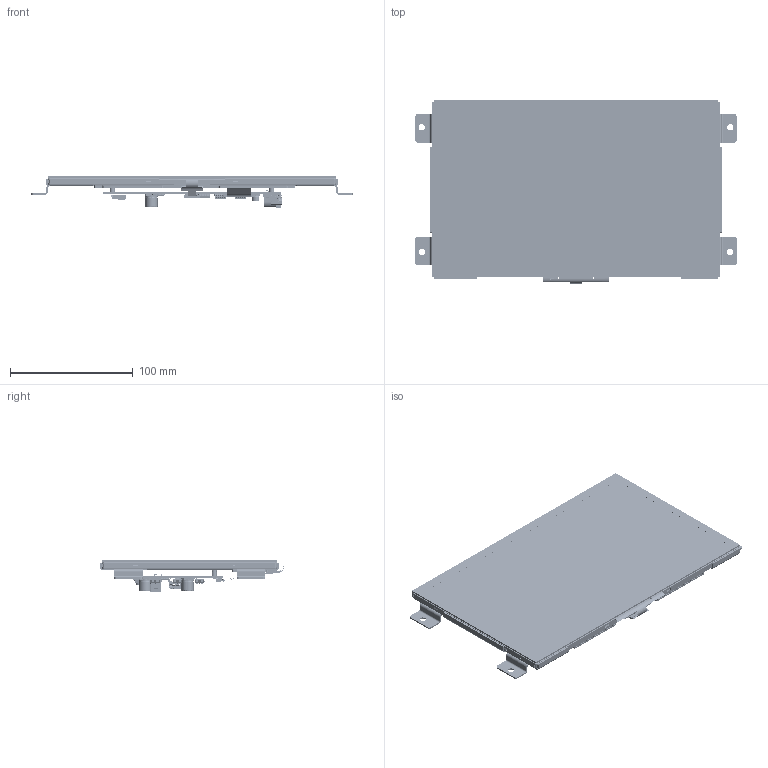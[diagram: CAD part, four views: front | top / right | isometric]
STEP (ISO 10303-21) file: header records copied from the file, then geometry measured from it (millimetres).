
FILE_DESCRIPTION (( 'STEP AP203' ), '1' );
FILE_NAME ('NHD-10.1-HDMI-A-RSXP-CTU.STEP', '2022-09-07T16:00:04', ( '' ), ( '' ), 'SwSTEP 2.0', 'SolidWorks 2019', '' );
FILE_SCHEMA (( 'CONFIG_CONTROL_DESIGN' ));
Products named in the file (1): NHD-10.1-HDMI-A-RSXP-CTU
Bounding box: 261.98 x 149.47 x 25.79 mm (x, y, z)
Surface area: 683597.9 mm2 (no closed solid volume)
Topology: 0 solids, 71 shells, 12126 faces, 36127 edges, 23669 vertices
Faces by surface type: plane 8867, cylinder 2952, bspline 267, cone 30, torus 10
Entity records: 412884 total; most frequent: CARTESIAN_POINT 82490, ORIENTED_EDGE 72136, DIRECTION 64922, EDGE_CURVE 36072, VECTOR 29240, LINE 29240, VERTEX_POINT 23669, AXIS2_PLACEMENT_3D 17841
